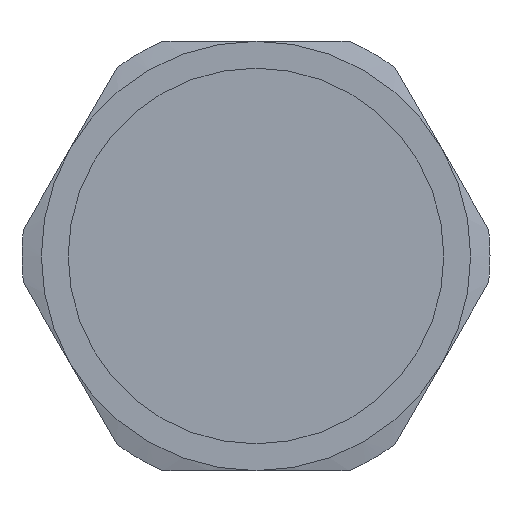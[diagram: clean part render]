
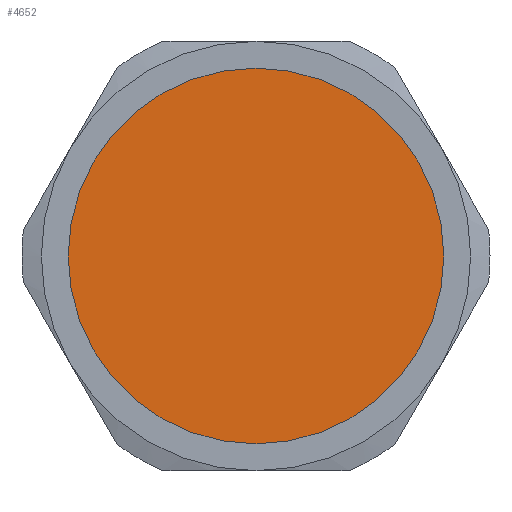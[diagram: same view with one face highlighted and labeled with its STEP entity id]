
A CAD part, left-side view. The second image highlights one B-rep face of the part: STEP entity #4652.
In plain terms, the highlighted planar face has unit normal (-1, 0, 0).
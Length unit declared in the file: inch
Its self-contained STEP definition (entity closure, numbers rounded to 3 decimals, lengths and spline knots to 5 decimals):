
#102=CARTESIAN_POINT('',(-1.69,0.4375,0.0));
#103=VERTEX_POINT('',#102);
#119=CARTESIAN_POINT('',(-1.69,-0.4375,0.));
#120=VERTEX_POINT('',#119);
#127=CARTESIAN_POINT('',(-1.69,0.,0.0));
#128=DIRECTION('',(-1.0,0.0,0.0));
#129=DIRECTION('',(0.0,1.0,0.0));
#130=AXIS2_PLACEMENT_3D('',#127,#128,#129);
#131=CIRCLE('',#130,0.4375);
#132=EDGE_CURVE('',#103,#120,#131,.T.);
#4637=CARTESIAN_POINT('',(-1.69,0.21875,0.0));
#4638=DIRECTION('',(-1.0,0.0,0.0));
#4639=DIRECTION('',(0.0,0.0,-1.0));
#4640=AXIS2_PLACEMENT_3D('',#4637,#4638,#4639);
#4641=PLANE('',#4640);
#4642=ORIENTED_EDGE('',*,*,#132,.T.);
#4643=CARTESIAN_POINT('',(-1.69,0.,0.0));
#4644=DIRECTION('',(-1.0,0.0,0.0));
#4645=DIRECTION('',(0.0,1.0,0.0));
#4646=AXIS2_PLACEMENT_3D('',#4643,#4644,#4645);
#4647=CIRCLE('',#4646,0.4375);
#4648=EDGE_CURVE('',#120,#103,#4647,.T.);
#4649=ORIENTED_EDGE('',*,*,#4648,.T.);
#4650=EDGE_LOOP('',(#4642,#4649));
#4651=FACE_OUTER_BOUND('',#4650,.T.);
#4652=ADVANCED_FACE('',(#4651),#4641,.T.);
